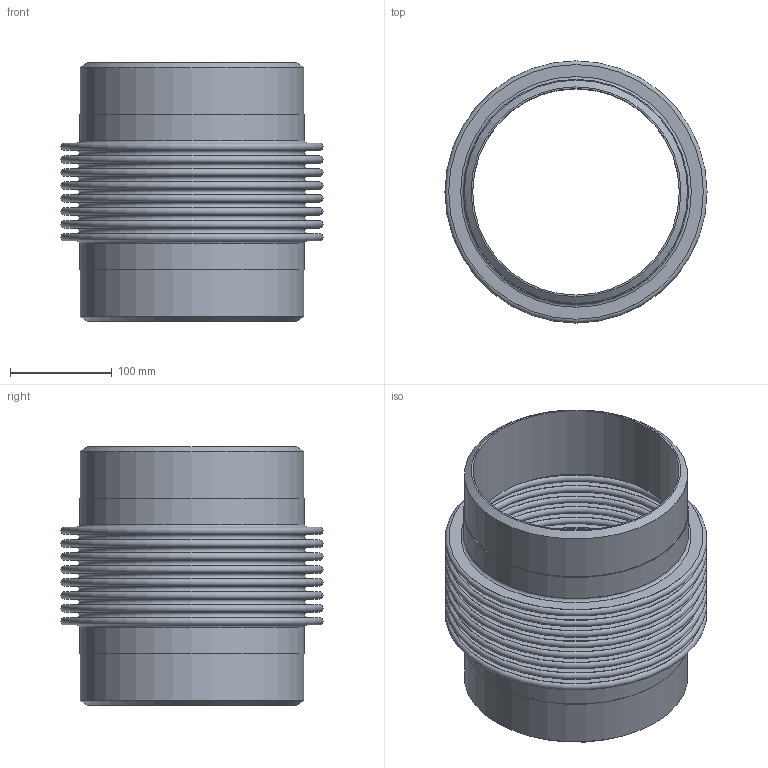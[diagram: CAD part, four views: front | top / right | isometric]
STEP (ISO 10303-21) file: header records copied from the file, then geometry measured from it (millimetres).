
FILE_DESCRIPTION(/* description */ (''),/* implementation_level */ '2;1');
FILE_NAME(/* name */ 'PIPE- 8 - 150 PSIG ASSEMBLY PART.stp',/* time_stamp */ '2026-07-24T15:32:02-05:00',/* author */ ('jorgef'),/* organization */ (''),/* preprocessor_version */ 'ST-DEVELOPER v20.1',/* originating_system */ 'Autodesk Inventor 2026',/* authorisation */ '');
FILE_SCHEMA (('AUTOMOTIVE_DESIGN { 1 0 10303 214 3 1 1 }'));
Length unit declared in the file: inch
Products named in the file (1): PIPE- 8 - 150 PSIG ASSEMBLY PART
Bounding box: 257.18 x 257.18 x 254 mm (x, y, z)
Volume: 1073617 mm3; surface area: 741421.7 mm2
Topology: 1 solids, 1 shells, 80 faces, 126 edges, 84 vertices
Faces by surface type: plane 38, torus 34, cylinder 6, cone 2
Full cylindrical faces by diameter (mm): 202.717 x2, 219.075 x2, 220.904 x2
Entity records: 2035 total; most frequent: DIRECTION 406, CARTESIAN_POINT 291, ORIENTED_EDGE 252, AXIS2_PLACEMENT_3D 199, EDGE_CURVE 126, EDGE_LOOP 118, CIRCLE 118, VERTEX_POINT 84
